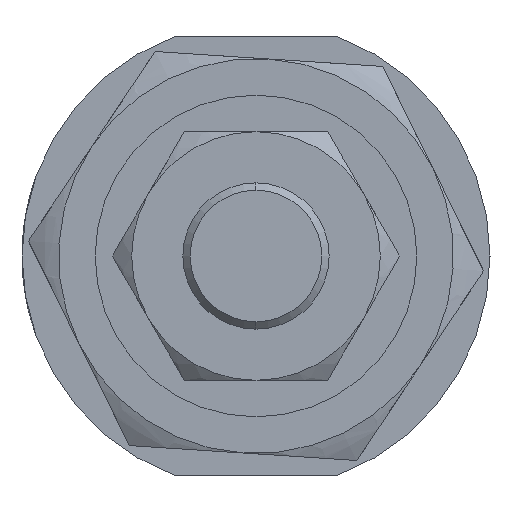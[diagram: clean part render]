
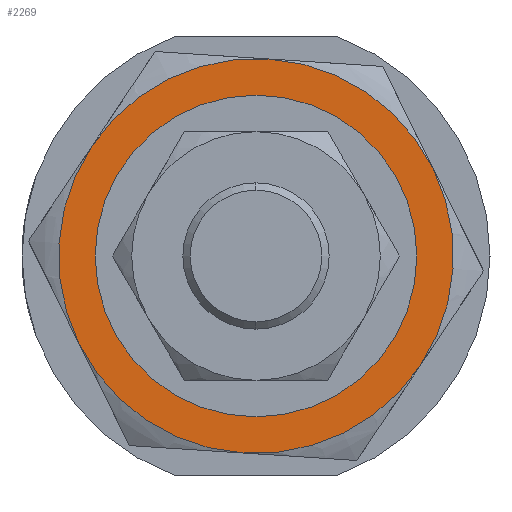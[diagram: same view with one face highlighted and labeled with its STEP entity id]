
A CAD part, left-side view. The second image highlights one B-rep face of the part: STEP entity #2269.
In plain terms, the highlighted planar face has unit normal (-1, 0, 0) as drawn and (0, 0, -1) by its records, which use the part's own axes.
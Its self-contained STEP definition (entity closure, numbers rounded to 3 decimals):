
#97 = EDGE_CURVE ( 'NONE', #897, #3041, #1881, .T. ) ;
#115 = AXIS2_PLACEMENT_3D ( 'NONE', #2556, #1947, #1408 ) ;
#138 = DIRECTION ( 'NONE',  ( 1., 0., 0. ) ) ;
#232 = DIRECTION ( 'NONE',  ( 1., 0., 0. ) ) ;
#245 = DIRECTION ( 'NONE',  ( 1., 0., 0. ) ) ;
#274 = CARTESIAN_POINT ( 'NONE',  ( 0., 0., -5. ) ) ;
#380 = DIRECTION ( 'NONE',  ( 1., 0., 0. ) ) ;
#407 = VERTEX_POINT ( 'NONE', #1736 ) ;
#408 = DIRECTION ( 'NONE',  ( 0., 0., 1. ) ) ;
#477 = CIRCLE ( 'NONE', #1828, 13.5 ) ;
#500 = DIRECTION ( 'NONE',  ( 0., 0., 1. ) ) ;
#502 = CARTESIAN_POINT ( 'NONE',  ( 0., 0., -5. ) ) ;
#535 = DIRECTION ( 'NONE',  ( 0., 0., 1. ) ) ;
#560 = CARTESIAN_POINT ( 'NONE',  ( 6.75, -11.691, -5. ) ) ;
#635 = ORIENTED_EDGE ( 'NONE', *, *, #1053, .F. ) ;
#655 = DIRECTION ( 'NONE',  ( 0., 0., 1. ) ) ;
#843 = CARTESIAN_POINT ( 'NONE',  ( 10., 0., -5. ) ) ;
#897 = VERTEX_POINT ( 'NONE', #560 ) ;
#901 = CARTESIAN_POINT ( 'NONE',  ( 6.75, 11.691, -5. ) ) ;
#915 = EDGE_CURVE ( 'NONE', #1752, #2733, #2458, .T. ) ;
#916 = DIRECTION ( 'NONE',  ( 1., 0., 0. ) ) ;
#919 = CIRCLE ( 'NONE', #1939, 10. ) ;
#993 = CARTESIAN_POINT ( 'NONE',  ( 0., 0., -5. ) ) ;
#1053 = EDGE_CURVE ( 'NONE', #407, #897, #3161, .T. ) ;
#1195 = PLANE ( 'NONE',  #1945 ) ;
#1257 = CARTESIAN_POINT ( 'NONE',  ( 0., 0., -5. ) ) ;
#1294 = CARTESIAN_POINT ( 'NONE',  ( 0., 0., -5. ) ) ;
#1306 = DIRECTION ( 'NONE',  ( 0., 0., 1. ) ) ;
#1395 = CARTESIAN_POINT ( 'NONE',  ( 0., 0., -5. ) ) ;
#1408 = DIRECTION ( 'NONE',  ( 1., 0., 0. ) ) ;
#1425 = EDGE_CURVE ( 'NONE', #3041, #1550, #1630, .T. ) ;
#1431 = CARTESIAN_POINT ( 'NONE',  ( 0., 0., -5. ) ) ;
#1432 = AXIS2_PLACEMENT_3D ( 'NONE', #1257, #1306, #380 ) ;
#1456 = ORIENTED_EDGE ( 'NONE', *, *, #1425, .F. ) ;
#1503 = ORIENTED_EDGE ( 'NONE', *, *, #97, .F. ) ;
#1550 = VERTEX_POINT ( 'NONE', #901 ) ;
#1630 = CIRCLE ( 'NONE', #1432, 13.5 ) ;
#1653 = EDGE_CURVE ( 'NONE', #2836, #1928, #2705, .T. ) ;
#1659 = AXIS2_PLACEMENT_3D ( 'NONE', #993, #408, #245 ) ;
#1736 = CARTESIAN_POINT ( 'NONE',  ( -6.75, -11.691, -5. ) ) ;
#1743 = EDGE_CURVE ( 'NONE', #2733, #1752, #919, .T. ) ;
#1752 = VERTEX_POINT ( 'NONE', #3193 ) ;
#1828 = AXIS2_PLACEMENT_3D ( 'NONE', #1395, #2390, #1936 ) ;
#1847 = AXIS2_PLACEMENT_3D ( 'NONE', #1431, #655, #232 ) ;
#1872 = ORIENTED_EDGE ( 'NONE', *, *, #1743, .T. ) ;
#1881 = CIRCLE ( 'NONE', #115, 13.5 ) ;
#1928 = VERTEX_POINT ( 'NONE', #2260 ) ;
#1936 = DIRECTION ( 'NONE',  ( 1., 0., 0. ) ) ;
#1939 = AXIS2_PLACEMENT_3D ( 'NONE', #1294, #3078, #138 ) ;
#1945 = AXIS2_PLACEMENT_3D ( 'NONE', #2741, #535, #3042 ) ;
#1947 = DIRECTION ( 'NONE',  ( 0., 0., 1. ) ) ;
#2041 = AXIS2_PLACEMENT_3D ( 'NONE', #502, #2316, #916 ) ;
#2164 = AXIS2_PLACEMENT_3D ( 'NONE', #274, #500, #3058 ) ;
#2251 = CIRCLE ( 'NONE', #1659, 13.5 ) ;
#2260 = CARTESIAN_POINT ( 'NONE',  ( -13.5, 0., -5. ) ) ;
#2269 = ADVANCED_FACE ( 'NONE', ( #2439, #2298 ), #1195, .F. ) ;
#2298 = FACE_OUTER_BOUND ( 'NONE', #2442, .T. ) ;
#2299 = ORIENTED_EDGE ( 'NONE', *, *, #1653, .F. ) ;
#2316 = DIRECTION ( 'NONE',  ( 0., 0., 1. ) ) ;
#2390 = DIRECTION ( 'NONE',  ( 0., 0., 1. ) ) ;
#2439 = FACE_BOUND ( 'NONE', #2616, .T. ) ;
#2442 = EDGE_LOOP ( 'NONE', ( #1456, #1503, #635, #2845, #2299, #2622 ) ) ;
#2458 = CIRCLE ( 'NONE', #2041, 10. ) ;
#2556 = CARTESIAN_POINT ( 'NONE',  ( 0., 0., -5. ) ) ;
#2616 = EDGE_LOOP ( 'NONE', ( #1872, #2730 ) ) ;
#2622 = ORIENTED_EDGE ( 'NONE', *, *, #3125, .F. ) ;
#2705 = CIRCLE ( 'NONE', #2164, 13.5 ) ;
#2730 = ORIENTED_EDGE ( 'NONE', *, *, #915, .T. ) ;
#2733 = VERTEX_POINT ( 'NONE', #843 ) ;
#2741 = CARTESIAN_POINT ( 'NONE',  ( 0., 0., -5. ) ) ;
#2836 = VERTEX_POINT ( 'NONE', #3093 ) ;
#2845 = ORIENTED_EDGE ( 'NONE', *, *, #2914, .F. ) ;
#2914 = EDGE_CURVE ( 'NONE', #1928, #407, #2251, .T. ) ;
#3033 = CARTESIAN_POINT ( 'NONE',  ( 13.5, 0., -5. ) ) ;
#3041 = VERTEX_POINT ( 'NONE', #3033 ) ;
#3042 = DIRECTION ( 'NONE',  ( 1., 0., 0. ) ) ;
#3058 = DIRECTION ( 'NONE',  ( 1., 0., 0. ) ) ;
#3078 = DIRECTION ( 'NONE',  ( 0., 0., 1. ) ) ;
#3093 = CARTESIAN_POINT ( 'NONE',  ( -6.75, 11.691, -5. ) ) ;
#3125 = EDGE_CURVE ( 'NONE', #1550, #2836, #477, .T. ) ;
#3161 = CIRCLE ( 'NONE', #1847, 13.5 ) ;
#3193 = CARTESIAN_POINT ( 'NONE',  ( -10., 0., -5. ) ) ;
